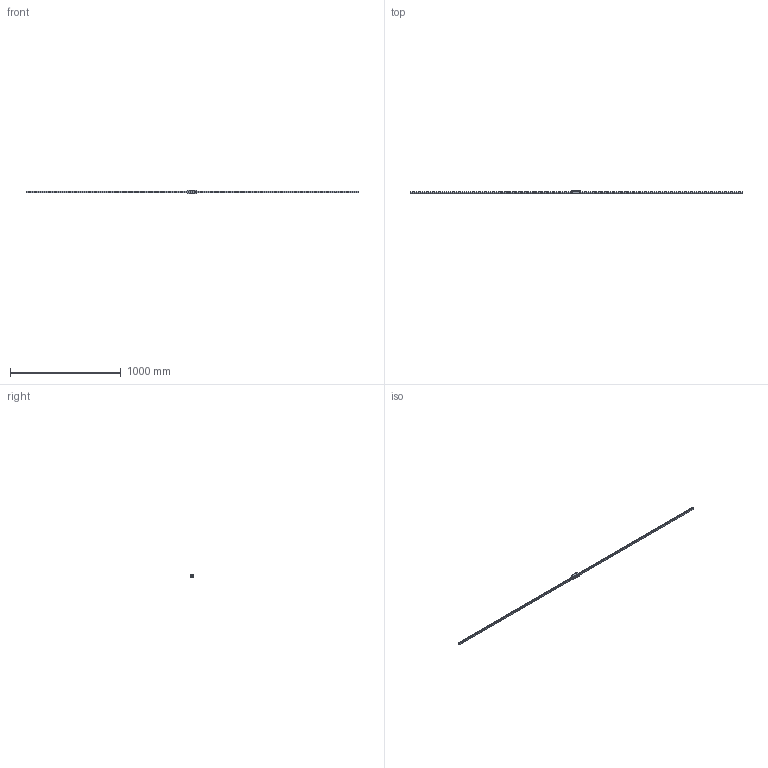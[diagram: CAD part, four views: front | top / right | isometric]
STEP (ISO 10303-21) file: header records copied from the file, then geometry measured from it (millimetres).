
FILE_DESCRIPTION(/* description */ ('STEP AP214'),/* implementation_level */ '2;1');
FILE_NAME(/* name */ 'HDR15LR1SS-3000L_G30_0_PB107_1462-55_0_0_01',/* time_stamp */ '2023-06-30T12:48:48+02:00',/* author */ ('License CC BY-ND 4.0'),/* organization */ ('CADENAS'),/* preprocessor_version */ 'ST-DEVELOPER v19.3',/* originating_system */ 'PARTsolutions',/* authorisation */ ' ');
FILE_SCHEMA (('AUTOMOTIVE_DESIGN {1 0 10303 214 3 1 1}'));
Length unit declared in the file: millimetre
Products named in the file (4): HDR15LR1SS-3000L_G30_0_PB107_1462-55_0_0_01; hsr_ftht_PB107_grease_nipple_joint; HDR15LRSSPB107 Slider-1; HDR15LR1300030 Rail
Assembly tree (3 placements, depth 2):
  HDR15LR1SS-3000L_G30_0_PB107_1462-55_0_0_01
    hsr_ftht_PB107_grease_nipple_joint
    HDR15LRSSPB107 Slider-1
    HDR15LR1300030 Rail
Bounding box: 3000 x 28 x 34 mm (x, y, z)
Volume: 621723 mm3; surface area: 220940.4 mm2
Topology: 3 solids, 3 shells, 335 faces, 796 edges, 524 vertices
Faces by surface type: cylinder 169, plane 153, cone 12, sphere 1
Full cylindrical faces by diameter (mm): 2.9 x4, 3 x1, 3.242 x6, 3.5 x3, 4.5 x51, 7.5 x50
Entity records: 9387 total; most frequent: DIRECTION 1682, CARTESIAN_POINT 1521, ORIENTED_EDGE 1320, AXIS2_PLACEMENT_3D 683, EDGE_CURVE 660, FACE_BOUND 626, EDGE_LOOP 620, VERTEX_POINT 522
